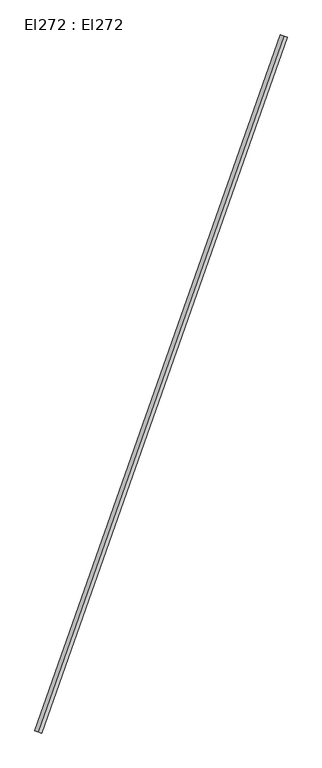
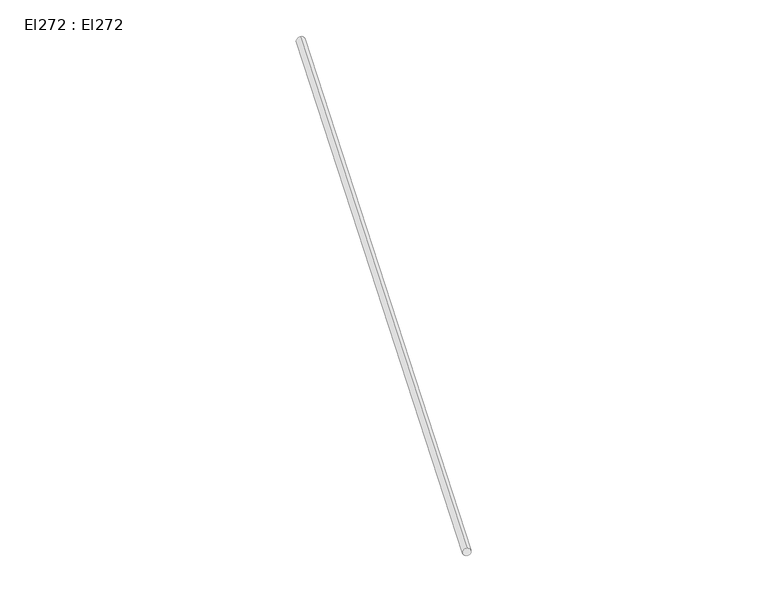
"""IFC4 building model written with IfcOpenShell, lengths in millimetres: cable carrier segment geometry, El272 : El272."""

from ifc_helpers import new_model, si_unit, point, frame, frame_2d, origin, place, context, project, spatial, circle_curve, trimmed, segment, composite_curve, outline, extrude, source, transform, mapped, element, save


def el272_el272_21e62ee4(model_context):
    return source(origin(), model_context, "Body", "SweptSolid", [
        extrude(outline(composite_curve([segment(trimmed(circle_curve(frame_2d((0.0, -9.5)), 9.5), [point((0.0, -19.0))], [point((0.0, 0.0))], False, "CARTESIAN"), True, "CONTINUOUS"), segment(trimmed(circle_curve(frame_2d((0.0, -9.5)), 9.5), [point((0.0, 0.0))], [point((0.0, -19.0))], False, "CARTESIAN"), True, "CONTINUOUS")], self_intersect=False)), frame((4570.062, 29102.731, 2959.5), z_axis=(0.33295998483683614, 0.9429409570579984, 0.0), x_axis=(-0.9429409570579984, 0.33295998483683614, 0.0)), (0.0, 0.0, 1.0), 1902.92),
    ])


if __name__ == "__main__":
    model = new_model("IFC4")
    model_context = context("Model", 3, world=origin())
    ifc_project = project(units=[si_unit("LENGTHUNIT", "METRE", prefix="MILLI")], contexts=[model_context])
    site = spatial("IfcSite", under=ifc_project)
    building = spatial("IfcBuilding", under=site)
    placement = place(None, origin())
    el272_el272_shape = el272_el272_21e62ee4(model_context)
    element("IfcCableCarrierSegment", 1, ObjectType="El272 : El272", at=placement, inside=building, context=model_context, shape_type="MappedRepresentation", body=[
        mapped(el272_el272_shape, transform((0.0, 0.0, 0.0), x_axis=(1.0, 0.0, 0.0), y_axis=(0.0, 1.0, 0.0), z_axis=(0.0, 0.0, 1.0))),
    ])
    save(model, "model.ifc")
